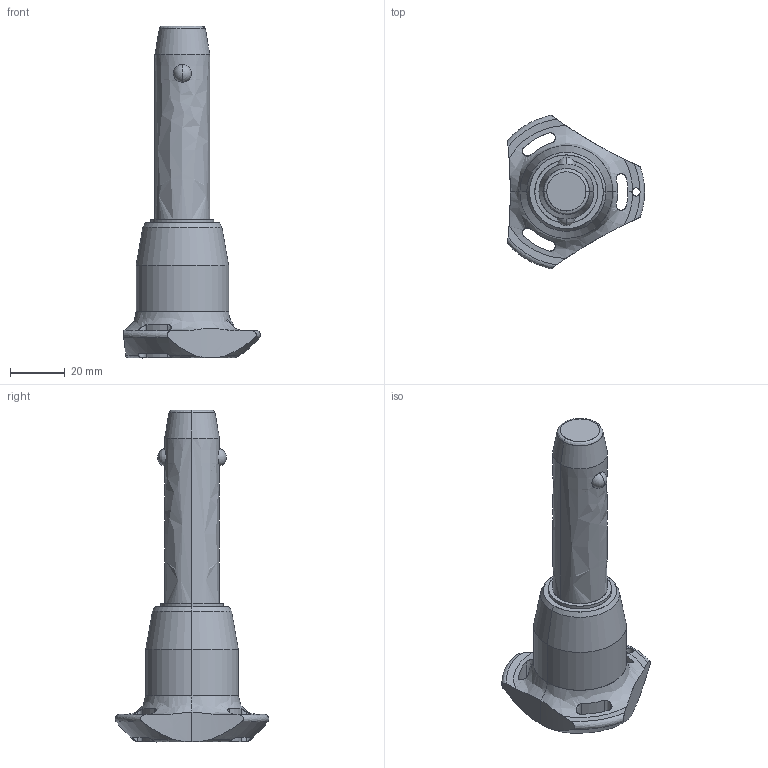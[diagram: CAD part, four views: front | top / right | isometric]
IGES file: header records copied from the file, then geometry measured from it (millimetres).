
Start section: SolidWorks IGES file using analytic representation for surfaces
Global section: file name: C:\Users\ianosborn\Desktop\QR1734_v2\QR1734_v2_20251113_IGES\QR1734.M20-050-S.igs; native system: SolidWorks 2019; preprocessor: SolidWorks 2019; author: IanOsborn; date: 251112.143958; units: millimetre
Bounding box: 50.04 x 56.02 x 121.2 mm (x, y, z)
Surface area: 14108.8 mm2 (no closed solid volume)
Topology: 0 solids, 0 shells, 65 faces, 1310 edges, 1306 vertices
Faces by surface type: revolution 50, bspline 15
